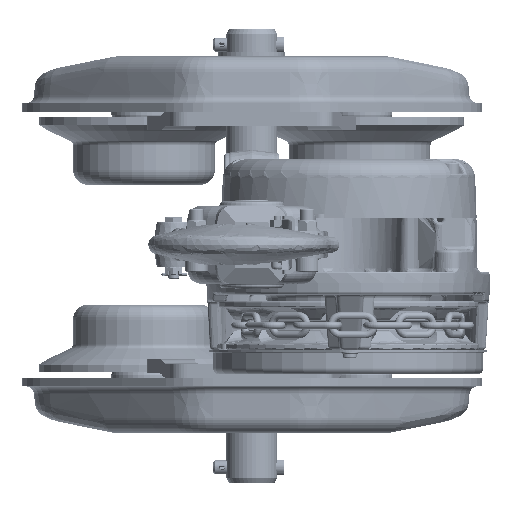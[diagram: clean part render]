
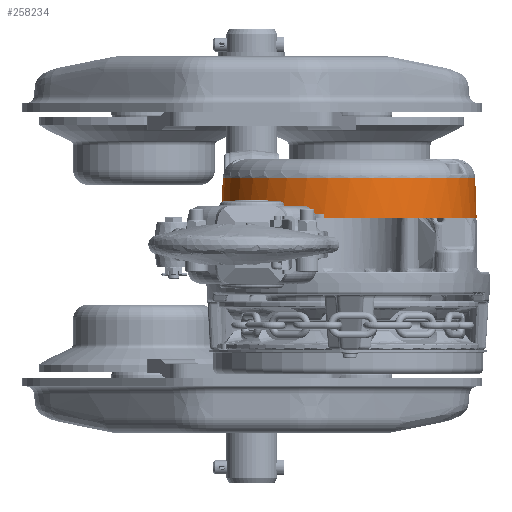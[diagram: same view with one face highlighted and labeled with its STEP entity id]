
A CAD part, front view. The second image highlights one B-rep face of the part: STEP entity #258234.
In plain terms, the highlighted conical face has half-angle 2 degrees and reference radius 90 mm.
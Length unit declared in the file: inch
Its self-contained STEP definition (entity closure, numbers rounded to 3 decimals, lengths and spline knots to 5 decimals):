
#507 = DIRECTION ( 'NONE',  ( 1., 0., 0. ) ) ;
#1315 = CARTESIAN_POINT ( 'NONE',  ( -2.36705, -2.63207, 0.09843 ) ) ;
#3180 = VECTOR ( 'NONE', #131745, 39.37008 ) ;
#3949 = VERTEX_POINT ( 'NONE', #152479 ) ;
#5638 = CARTESIAN_POINT ( 'NONE',  ( 3.54331, 0., 0. ) ) ;
#7868 = VECTOR ( 'NONE', #121545, 39.37008 ) ;
#9522 = B_SPLINE_CURVE_WITH_KNOTS ( 'NONE', 3,
 ( #83776, #146855, #38966, #169244, #124487, #128575, #41727, #188820 ),
 .UNSPECIFIED., .F., .F.,
 ( 4, 2, 2, 4 ),
 ( 0., 0.00029, 0.00043, 0.00057 ),
 .UNSPECIFIED. ) ;
#9777 = DIRECTION ( 'NONE',  ( 1., 0., 0. ) ) ;
#10846 = CARTESIAN_POINT ( 'NONE',  ( -0.71288, -3.46775, 0.08703 ) ) ;
#17895 = ORIENTED_EDGE ( 'NONE', *, *, #91796, .T. ) ;
#21706 = CARTESIAN_POINT ( 'NONE',  ( -0.71254, -3.46989, 0.02901 ) ) ;
#24000 = CARTESIAN_POINT ( 'NONE',  ( -2.38088, -2.62284, 0.02901 ) ) ;
#25138 = EDGE_CURVE ( 'NONE', #216574, #212013, #46274, .T. ) ;
#27113 = B_SPLINE_CURVE_WITH_KNOTS ( 'NONE', 3,
 ( #218739, #29527, #24000, #134642 ),
 .UNSPECIFIED., .F., .F.,
 ( 4, 4 ),
 ( 0.00029, 0.0025 ),
 .UNSPECIFIED. ) ;
#27807 = CARTESIAN_POINT ( 'NONE',  ( -2.37577, -2.62437, 0.09472 ) ) ;
#29527 = CARTESIAN_POINT ( 'NONE',  ( -2.37986, -2.62239, 0.05802 ) ) ;
#30787 = CARTESIAN_POINT ( 'NONE',  ( 0., 0., 0. ) ) ;
#33052 = VERTEX_POINT ( 'NONE', #210659 ) ;
#33644 = CARTESIAN_POINT ( 'NONE',  ( 3.50483, 0., 1.10191 ) ) ;
#38966 = CARTESIAN_POINT ( 'NONE',  ( -0.72229, -3.46543, 0.09766 ) ) ;
#40800 = DIRECTION ( 'NONE',  ( 1., 0., 0. ) ) ;
#41727 = CARTESIAN_POINT ( 'NONE',  ( -0.71289, -3.46768, 0.08895 ) ) ;
#46274 = LINE ( 'NONE', #5638, #3180 ) ;
#48831 = CARTESIAN_POINT ( 'NONE',  ( -2.37879, -2.62191, 0.08882 ) ) ;
#59055 = DIRECTION ( 'NONE',  ( 0., 0., -1. ) ) ;
#61622 = EDGE_CURVE ( 'NONE', #108717, #33052, #123921, .T. ) ;
#66338 = CARTESIAN_POINT ( 'NONE',  ( 0., 0., 0. ) ) ;
#66965 = VERTEX_POINT ( 'NONE', #218948 ) ;
#69295 = CARTESIAN_POINT ( 'NONE',  ( -2.37885, -2.62194, 0.08703 ) ) ;
#75353 = ORIENTED_EDGE ( 'NONE', *, *, #83069, .T. ) ;
#78278 = VERTEX_POINT ( 'NONE', #69295 ) ;
#81692 = CARTESIAN_POINT ( 'NONE',  ( -3.54331, 0., 0. ) ) ;
#83069 = EDGE_CURVE ( 'NONE', #216574, #3949, #249173, .T. ) ;
#83776 = CARTESIAN_POINT ( 'NONE',  ( -0.72972, -3.46384, 0.09843 ) ) ;
#87000 = EDGE_CURVE ( 'NONE', #3949, #108717, #99095, .T. ) ;
#89028 = ORIENTED_EDGE ( 'NONE', *, *, #87000, .T. ) ;
#90488 = AXIS2_PLACEMENT_3D ( 'NONE', #66338, #212077, #507 ) ;
#91796 = EDGE_CURVE ( 'NONE', #168371, #199192, #211282, .T. ) ;
#93907 = CONICAL_SURFACE ( 'NONE', #214716, 3.54331, 0.035 ) ;
#95358 = EDGE_CURVE ( 'NONE', #66965, #168371, #9522, .T. ) ;
#99095 = LINE ( 'NONE', #271353, #7868 ) ;
#101390 = ORIENTED_EDGE ( 'NONE', *, *, #210335, .T. ) ;
#103081 = EDGE_LOOP ( 'NONE', ( #75353, #89028, #192143, #207519, #101390, #211853, #226655, #17895, #179448, #131837 ) ) ;
#108717 = VERTEX_POINT ( 'NONE', #81692 ) ;
#113291 = CARTESIAN_POINT ( 'NONE',  ( -2.37235, -2.62733, 0.09758 ) ) ;
#121545 = DIRECTION ( 'NONE',  ( -0.035, 0., -0.999 ) ) ;
#122596 = CARTESIAN_POINT ( 'NONE',  ( 0., 0., 0.09843 ) ) ;
#123921 = CIRCLE ( 'NONE', #173071, 3.54331 ) ;
#124487 = CARTESIAN_POINT ( 'NONE',  ( -0.71591, -3.46689, 0.09379 ) ) ;
#128575 = CARTESIAN_POINT ( 'NONE',  ( -0.71363, -3.46746, 0.09079 ) ) ;
#129608 = CARTESIAN_POINT ( 'NONE',  ( -0.71236, -3.47096, 0. ) ) ;
#131745 = DIRECTION ( 'NONE',  ( 0.035, 0., -0.999 ) ) ;
#131837 = ORIENTED_EDGE ( 'NONE', *, *, #25138, .F. ) ;
#132371 = CARTESIAN_POINT ( 'NONE',  ( -0.71271, -3.46882, 0.05802 ) ) ;
#134314 = CARTESIAN_POINT ( 'NONE',  ( -2.37831, -2.62227, 0.09055 ) ) ;
#134642 = CARTESIAN_POINT ( 'NONE',  ( -2.38189, -2.62329, 0. ) ) ;
#146249 = AXIS2_PLACEMENT_3D ( 'NONE', #147035, #253436, #170771 ) ;
#146855 = CARTESIAN_POINT ( 'NONE',  ( -0.72599, -3.46463, 0.09843 ) ) ;
#147035 = CARTESIAN_POINT ( 'NONE',  ( 0., 0., 1.10191 ) ) ;
#152479 = CARTESIAN_POINT ( 'NONE',  ( -3.50483, 0., 1.10191 ) ) ;
#156206 = CIRCLE ( 'NONE', #267898, 3.53987 ) ;
#158695 = CARTESIAN_POINT ( 'NONE',  ( 3.54331, 0., 0. ) ) ;
#168371 = VERTEX_POINT ( 'NONE', #10846 ) ;
#169244 = CARTESIAN_POINT ( 'NONE',  ( -0.71742, -3.46653, 0.09496 ) ) ;
#170771 = DIRECTION ( 'NONE',  ( -1., 0., 0. ) ) ;
#171630 = CARTESIAN_POINT ( 'NONE',  ( -0.71288, -3.46775, 0.08703 ) ) ;
#173071 = AXIS2_PLACEMENT_3D ( 'NONE', #30787, #266070, #9777 ) ;
#177576 = CARTESIAN_POINT ( 'NONE',  ( -2.36705, -2.63207, 0.09843 ) ) ;
#179448 = ORIENTED_EDGE ( 'NONE', *, *, #262092, .T. ) ;
#186951 = DIRECTION ( 'NONE',  ( -1., 0., 0. ) ) ;
#187887 = FACE_OUTER_BOUND ( 'NONE', #103081, .T. ) ;
#188820 = CARTESIAN_POINT ( 'NONE',  ( -0.71288, -3.46775, 0.08703 ) ) ;
#189301 = EDGE_CURVE ( 'NONE', #66965, #211264, #156206, .T. ) ;
#192143 = ORIENTED_EDGE ( 'NONE', *, *, #61622, .T. ) ;
#193162 = CARTESIAN_POINT ( 'NONE',  ( -2.3697, -2.62968, 0.09843 ) ) ;
#197855 = CARTESIAN_POINT ( 'NONE',  ( -0.71236, -3.47096, 0. ) ) ;
#199192 = VERTEX_POINT ( 'NONE', #197855 ) ;
#207519 = ORIENTED_EDGE ( 'NONE', *, *, #232125, .F. ) ;
#210335 = EDGE_CURVE ( 'NONE', #78278, #211264, #220864, .T. ) ;
#210659 = CARTESIAN_POINT ( 'NONE',  ( -2.38189, -2.62329, 0. ) ) ;
#211264 = VERTEX_POINT ( 'NONE', #177576 ) ;
#211282 = B_SPLINE_CURVE_WITH_KNOTS ( 'NONE', 3,
 ( #171630, #132371, #21706, #129608 ),
 .UNSPECIFIED., .F., .F.,
 ( 4, 4 ),
 ( 0.00029, 0.0025 ),
 .UNSPECIFIED. ) ;
#211853 = ORIENTED_EDGE ( 'NONE', *, *, #189301, .F. ) ;
#212013 = VERTEX_POINT ( 'NONE', #158695 ) ;
#212077 = DIRECTION ( 'NONE',  ( 0., 0., 1. ) ) ;
#214716 = AXIS2_PLACEMENT_3D ( 'NONE', #273357, #59055, #40800 ) ;
#216574 = VERTEX_POINT ( 'NONE', #33644 ) ;
#218739 = CARTESIAN_POINT ( 'NONE',  ( -2.37885, -2.62194, 0.08703 ) ) ;
#218948 = CARTESIAN_POINT ( 'NONE',  ( -0.72972, -3.46384, 0.09843 ) ) ;
#219750 = CARTESIAN_POINT ( 'NONE',  ( -2.37678, -2.62351, 0.0935 ) ) ;
#220864 = B_SPLINE_CURVE_WITH_KNOTS ( 'NONE', 3,
 ( #240745, #48831, #134314, #219750, #27807, #113291, #193162, #1315 ),
 .UNSPECIFIED., .F., .F.,
 ( 4, 2, 2, 4 ),
 ( 0., 0.00013, 0.00027, 0.00054 ),
 .UNSPECIFIED. ) ;
#226655 = ORIENTED_EDGE ( 'NONE', *, *, #95358, .T. ) ;
#232125 = EDGE_CURVE ( 'NONE', #78278, #33052, #27113, .T. ) ;
#240745 = CARTESIAN_POINT ( 'NONE',  ( -2.37885, -2.62194, 0.08703 ) ) ;
#247060 = CIRCLE ( 'NONE', #90488, 3.54331 ) ;
#249173 = CIRCLE ( 'NONE', #146249, 3.50483 ) ;
#253436 = DIRECTION ( 'NONE',  ( 0., 0., -1. ) ) ;
#258234 = ADVANCED_FACE ( 'NONE', ( #187887 ), #93907, .T. ) ;
#262092 = EDGE_CURVE ( 'NONE', #199192, #212013, #247060, .T. ) ;
#266070 = DIRECTION ( 'NONE',  ( 0., 0., 1. ) ) ;
#267898 = AXIS2_PLACEMENT_3D ( 'NONE', #122596, #269627, #186951 ) ;
#269627 = DIRECTION ( 'NONE',  ( 0., 0., -1. ) ) ;
#271353 = CARTESIAN_POINT ( 'NONE',  ( -3.54331, 0., 0. ) ) ;
#273357 = CARTESIAN_POINT ( 'NONE',  ( 0., 0., 0. ) ) ;
